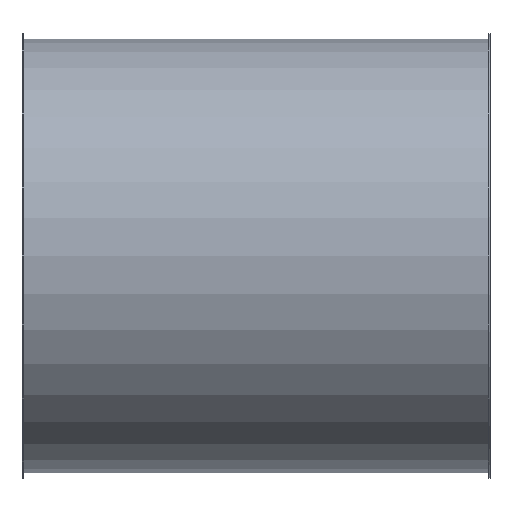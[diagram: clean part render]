
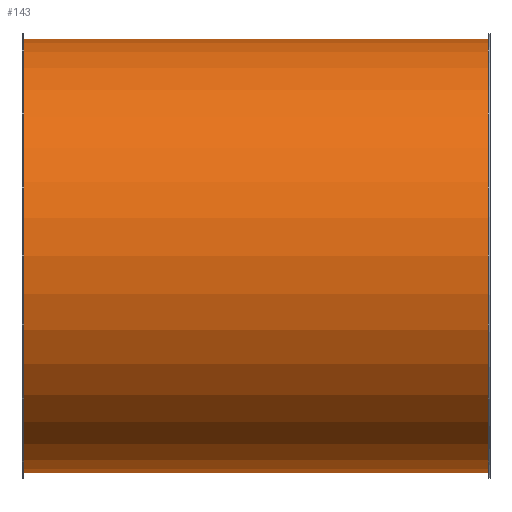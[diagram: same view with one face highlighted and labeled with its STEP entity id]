
A CAD part, front view. The second image highlights one B-rep face of the part: STEP entity #143.
In plain terms, the highlighted cylindrical face has radius 226 mm (diameter 452 mm), a full revolution.
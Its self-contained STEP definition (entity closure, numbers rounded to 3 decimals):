
#112=CARTESIAN_POINT('',(454.119,2.817,0.0));
#113=VERTEX_POINT('',#112);
#114=CARTESIAN_POINT('',(454.119,228.817,0.0));
#115=DIRECTION('',(-1.0,0.0,0.0));
#116=DIRECTION('',(0.0,-1.0,0.0));
#117=AXIS2_PLACEMENT_3D('',#114,#115,#116);
#118=CIRCLE('',#117,226.);
#119=EDGE_CURVE('',#113,#113,#118,.T.);
#124=CARTESIAN_POINT('',(212.119,228.817,0.0));
#125=DIRECTION('',(-1.0,0.,0.0));
#126=DIRECTION('',(0.0,-1.0,0.0));
#127=AXIS2_PLACEMENT_3D('',#124,#125,#126);
#128=CYLINDRICAL_SURFACE('',#127,226.);
#129=CARTESIAN_POINT('',(-29.881,2.817,0.0));
#130=VERTEX_POINT('',#129);
#131=CARTESIAN_POINT('',(-29.881,228.817,0.0));
#132=DIRECTION('',(-1.0,0.0,0.0));
#133=DIRECTION('',(0.0,-1.0,0.0));
#134=AXIS2_PLACEMENT_3D('',#131,#132,#133);
#135=CIRCLE('',#134,226.0);
#136=EDGE_CURVE('',#130,#130,#135,.T.);
#137=ORIENTED_EDGE('',*,*,#136,.F.);
#138=EDGE_LOOP('',(#137));
#139=FACE_OUTER_BOUND('',#138,.T.);
#140=ORIENTED_EDGE('',*,*,#119,.T.);
#141=EDGE_LOOP('',(#140));
#142=FACE_BOUND('',#141,.T.);
#143=ADVANCED_FACE('',(#139,#142),#128,.T.);
